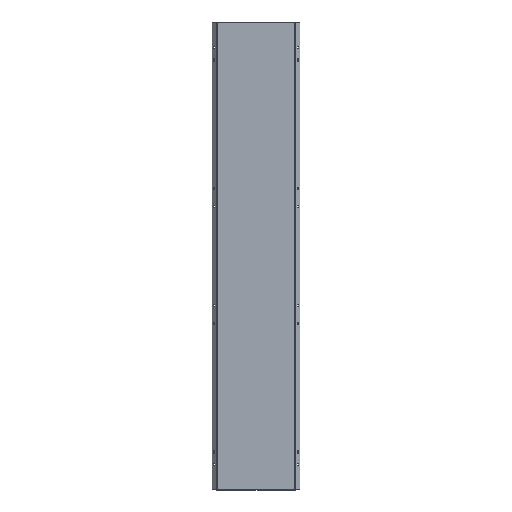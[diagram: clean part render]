
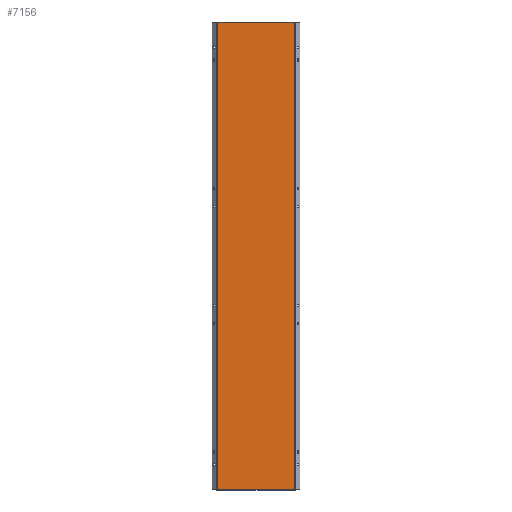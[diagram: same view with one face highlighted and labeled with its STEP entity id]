
A CAD part, top view. The second image highlights one B-rep face of the part: STEP entity #7156.
In plain terms, the highlighted planar face has unit normal (0, 0, 1).
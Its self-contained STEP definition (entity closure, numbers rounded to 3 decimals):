
#169 = ORIENTED_EDGE ( 'NONE', *, *, #6974, .T. ) ;
#205 = VERTEX_POINT ( 'NONE', #1399 ) ;
#683 = EDGE_CURVE ( 'NONE', #762, #1275, #3169, .T. ) ;
#762 = VERTEX_POINT ( 'NONE', #4124 ) ;
#1053 = DIRECTION ( 'NONE',  ( 0., 0., -1. ) ) ;
#1097 = AXIS2_PLACEMENT_3D ( 'NONE', #1655, #1053, #4072 ) ;
#1275 = VERTEX_POINT ( 'NONE', #2197 ) ;
#1307 = EDGE_CURVE ( 'NONE', #1275, #205, #1931, .T. ) ;
#1324 = DIRECTION ( 'NONE',  ( -1., 0., 0. ) ) ;
#1399 = CARTESIAN_POINT ( 'NONE',  ( -161.5, 970.5, 0. ) ) ;
#1529 = VECTOR ( 'NONE', #3391, 1000. ) ;
#1543 = CARTESIAN_POINT ( 'NONE',  ( -161.5, -970.5, 0. ) ) ;
#1655 = CARTESIAN_POINT ( 'NONE',  ( 0., 0., 0. ) ) ;
#1931 = LINE ( 'NONE', #4377, #3393 ) ;
#2197 = CARTESIAN_POINT ( 'NONE',  ( 161.5, 970.5, 0. ) ) ;
#2760 = ORIENTED_EDGE ( 'NONE', *, *, #683, .T. ) ;
#2816 = VERTEX_POINT ( 'NONE', #5116 ) ;
#3169 = LINE ( 'NONE', #5623, #7723 ) ;
#3391 = DIRECTION ( 'NONE',  ( 1., 0., 0. ) ) ;
#3393 = VECTOR ( 'NONE', #1324, 1000. ) ;
#3531 = VECTOR ( 'NONE', #3833, 1000. ) ;
#3833 = DIRECTION ( 'NONE',  ( 0., -1., 0. ) ) ;
#3934 = DIRECTION ( 'NONE',  ( 0., 1., 0. ) ) ;
#4072 = DIRECTION ( 'NONE',  ( -1., 0., 0. ) ) ;
#4124 = CARTESIAN_POINT ( 'NONE',  ( 161.5, -970.5, 0. ) ) ;
#4377 = CARTESIAN_POINT ( 'NONE',  ( -161.5, 970.5, 0. ) ) ;
#4597 = LINE ( 'NONE', #1543, #1529 ) ;
#4697 = EDGE_LOOP ( 'NONE', ( #2760, #5460, #169, #6535 ) ) ;
#5116 = CARTESIAN_POINT ( 'NONE',  ( -161.5, -970.5, 0. ) ) ;
#5460 = ORIENTED_EDGE ( 'NONE', *, *, #1307, .T. ) ;
#5623 = CARTESIAN_POINT ( 'NONE',  ( 161.5, -970.5, 0. ) ) ;
#5677 = CARTESIAN_POINT ( 'NONE',  ( -161.5, -970.5, 0. ) ) ;
#5879 = FACE_OUTER_BOUND ( 'NONE', #4697, .T. ) ;
#6535 = ORIENTED_EDGE ( 'NONE', *, *, #6778, .T. ) ;
#6778 = EDGE_CURVE ( 'NONE', #2816, #762, #4597, .T. ) ;
#6974 = EDGE_CURVE ( 'NONE', #205, #2816, #7586, .T. ) ;
#7142 = PLANE ( 'NONE',  #1097 ) ;
#7156 = ADVANCED_FACE ( 'NONE', ( #5879 ), #7142, .F. ) ;
#7586 = LINE ( 'NONE', #5677, #3531 ) ;
#7723 = VECTOR ( 'NONE', #3934, 1000. ) ;
